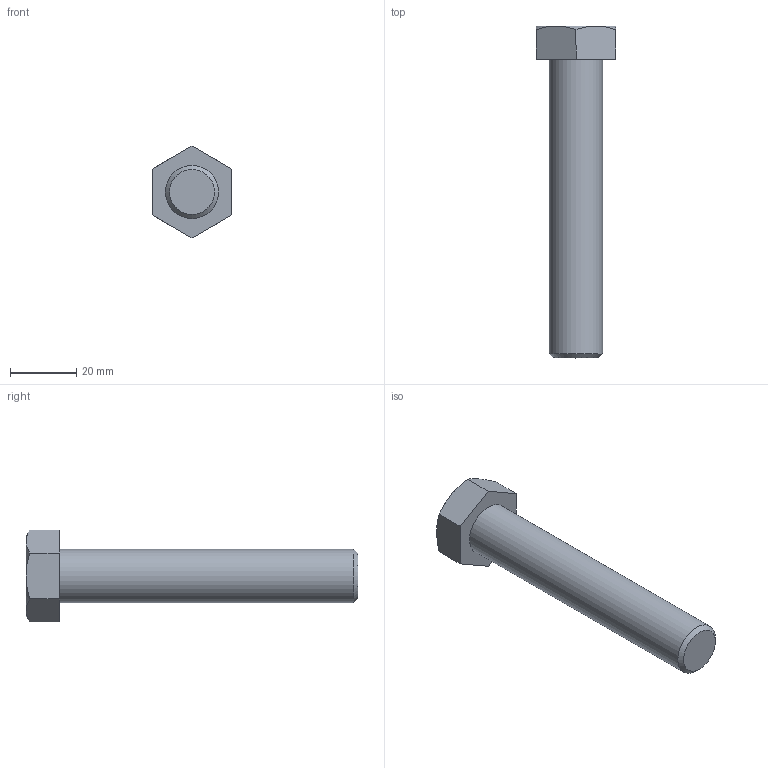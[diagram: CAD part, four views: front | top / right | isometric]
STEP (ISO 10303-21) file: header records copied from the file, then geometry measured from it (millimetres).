
FILE_DESCRIPTION(/* description */ (''),/* implementation_level */ '2;1');
FILE_NAME(/* name */ 'C:\Users\unitec\Documents\Inventor\各種小物\JIS\JIS B 1180 六角ボルト 等級C\hbc16\M16x90.stp',/* time_stamp */ '2015-02-13T14:52:16+09:00',/* author */ ('unitec'),/* organization */ (''),/* preprocessor_version */ 'ST-DEVELOPER v15.2',/* originating_system */ 'Autodesk Inventor 2014',/* authorisation */ '');
FILE_SCHEMA (('AUTOMOTIVE_DESIGN { 1 0 10303 214 3 1 1 }'));
Length unit declared in the file: millimetre
Products named in the file (1): M16x90
Bounding box: 24 x 100 x 27.71 mm (x, y, z)
Volume: 23032.8 mm3; surface area: 6291.4 mm2
Topology: 1 solids, 1 shells, 17 faces, 35 edges, 21 vertices
Faces by surface type: plane 9, cone 7, cylinder 1
Full cylindrical faces by diameter (mm): 16 x1
Entity records: 441 total; most frequent: CARTESIAN_POINT 96, ORIENTED_EDGE 66, DIRECTION 66, EDGE_CURVE 33, AXIS2_PLACEMENT_3D 27, VERTEX_POINT 21, EDGE_LOOP 20, ADVANCED_FACE 17
